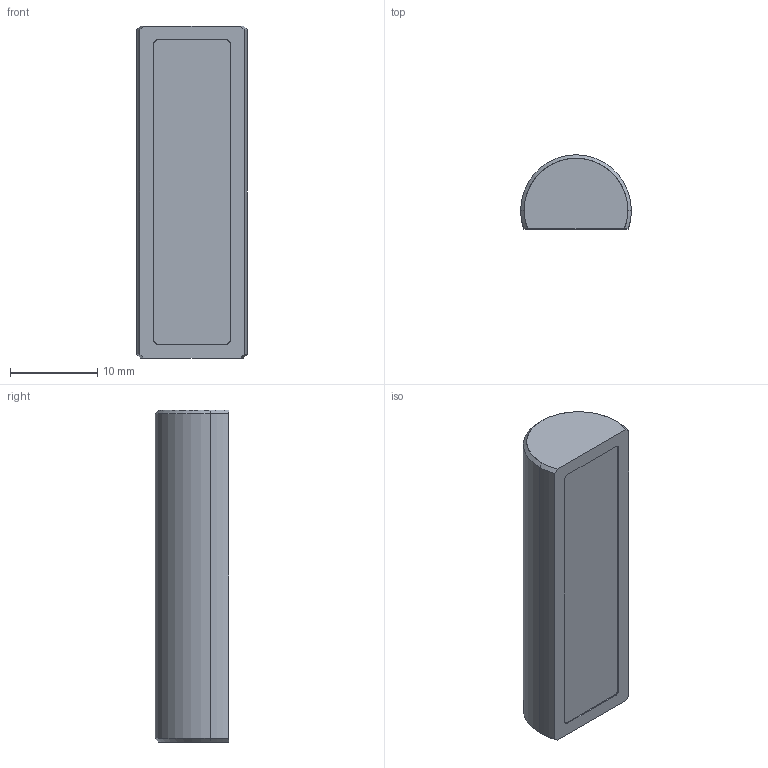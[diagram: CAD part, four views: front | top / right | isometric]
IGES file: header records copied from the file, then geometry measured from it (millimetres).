
Start section: SolidWorks IGES file using analytic representation for surfaces
Global section: file name: D:\Solid_parts\MECHeDESIGN\Bal-Tec\Catalog 105-A\Distribution\IGES\500-TCR.IGS; native system: SolidWorks 2005 by SolidWorks Corporation; preprocessor: SolidWorks 2005 by SolidWorks Corporation; author: rvillegas; date: 061205.184011; units: inch
Bounding box: 12.7 x 8.48 x 38.1 mm (x, y, z)
Surface area: 1560.3 mm2 (no closed solid volume)
Topology: 0 solids, 0 shells, 21 faces, 158 edges, 158 vertices
Faces by surface type: revolution 13, bspline 8
